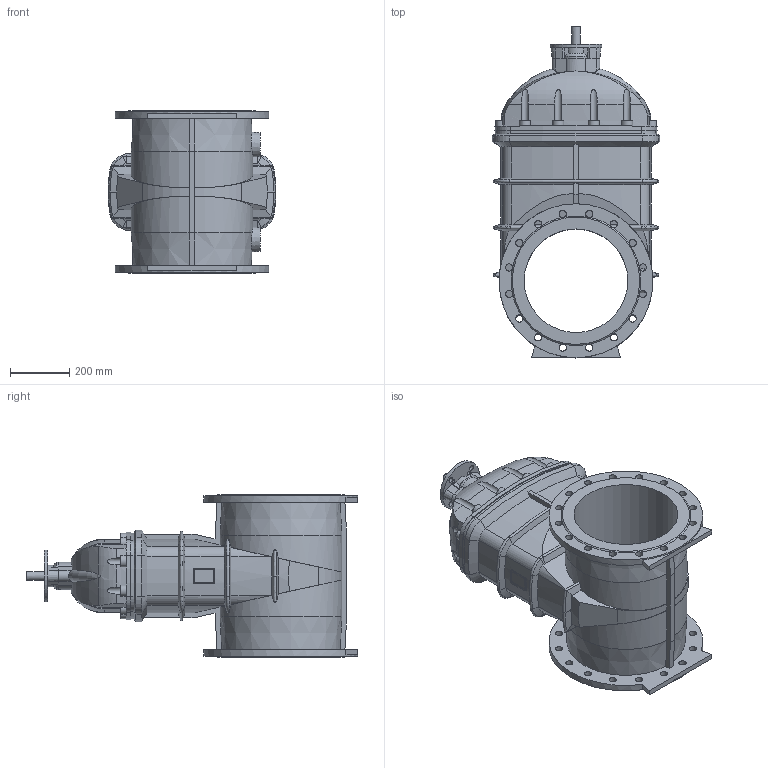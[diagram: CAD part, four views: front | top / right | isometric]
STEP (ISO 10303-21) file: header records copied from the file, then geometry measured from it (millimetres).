
FILE_DESCRIPTION (( 'STEP AP203' ), '1' );
FILE_NAME ('O_15_72_DN350_00_step.STEP', '2015-05-21T01:30:21', ( '' ), ( '' ), 'SwSTEP 2.0', 'SolidWorks 2012', '' );
FILE_SCHEMA (( 'CONFIG_CONTROL_DESIGN' ));
Length unit declared in the file: millimetre
Products named in the file (1): O_15_72_DN350_00_step
Bounding box: 566.75 x 1121 x 550 mm (x, y, z)
Volume: 86826434.5 mm3; surface area: 2850453.5 mm2
Topology: 1 solids, 1 shells, 475 faces, 1371 edges, 877 vertices
Faces by surface type: cylinder 172, plane 140, cone 69, bspline 66, torus 28
Full cylindrical faces by diameter (mm): 12 x4, 18 x4, 24.5 x32, 30 x1, 175 x1, 350 x1, 520 x2
Entity records: 19383 total; most frequent: CARTESIAN_POINT 7962, ORIENTED_EDGE 2550, DIRECTION 2124, EDGE_CURVE 1275, AXIS2_PLACEMENT_3D 879, VERTEX_POINT 831, EDGE_LOOP 586, FACE_OUTER_BOUND 520
